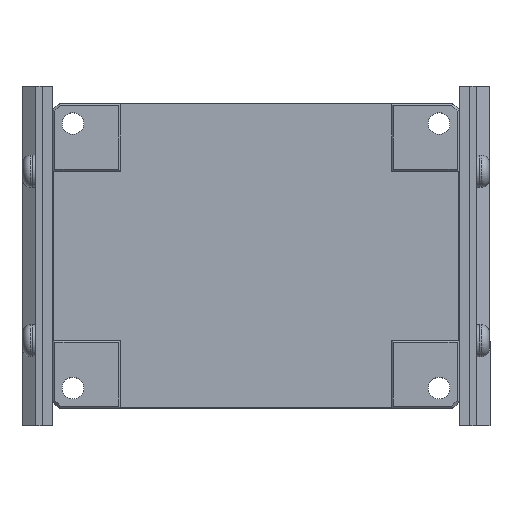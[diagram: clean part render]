
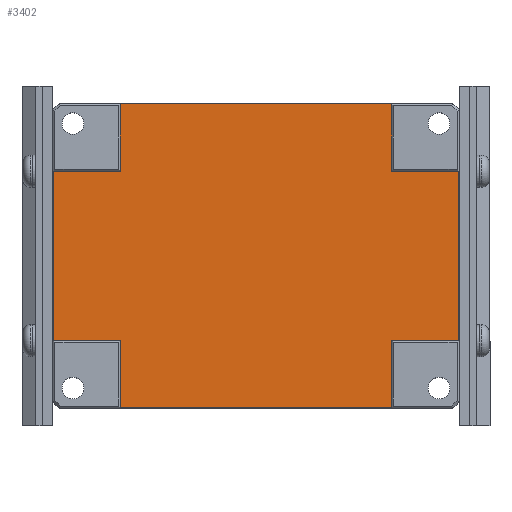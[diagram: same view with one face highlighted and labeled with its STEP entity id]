
A CAD part, top view. The second image highlights one B-rep face of the part: STEP entity #3402.
In plain terms, the highlighted planar face has unit normal (0, 0, 1).
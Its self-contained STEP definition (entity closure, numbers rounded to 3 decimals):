
#448=FACE_OUTER_BOUND('',#658,.T.);
#658=EDGE_LOOP('',(#2686,#2687,#2688,#2689,#2690,#2691,#2692,#2693,#2694,
#2695,#2696,#2697));
#972=LINE('',#5534,#1298);
#979=LINE('',#5548,#1305);
#984=LINE('',#5558,#1310);
#985=LINE('',#5560,#1311);
#986=LINE('',#5562,#1312);
#987=LINE('',#5564,#1313);
#988=LINE('',#5566,#1314);
#989=LINE('',#5568,#1315);
#990=LINE('',#5570,#1316);
#991=LINE('',#5571,#1317);
#992=LINE('',#5573,#1318);
#993=LINE('',#5574,#1319);
#1298=VECTOR('',#4497,10.);
#1305=VECTOR('',#4506,10.);
#1310=VECTOR('',#4515,10.);
#1311=VECTOR('',#4516,10.);
#1312=VECTOR('',#4517,10.);
#1313=VECTOR('',#4518,10.);
#1314=VECTOR('',#4519,10.);
#1315=VECTOR('',#4520,10.);
#1316=VECTOR('',#4521,10.);
#1317=VECTOR('',#4522,10.);
#1318=VECTOR('',#4523,10.);
#1319=VECTOR('',#4524,10.);
#1596=VERTEX_POINT('',#5531);
#1597=VERTEX_POINT('',#5533);
#1602=VERTEX_POINT('',#5545);
#1603=VERTEX_POINT('',#5547);
#1606=VERTEX_POINT('',#5557);
#1607=VERTEX_POINT('',#5559);
#1608=VERTEX_POINT('',#5561);
#1609=VERTEX_POINT('',#5563);
#1610=VERTEX_POINT('',#5565);
#1611=VERTEX_POINT('',#5567);
#1612=VERTEX_POINT('',#5569);
#1613=VERTEX_POINT('',#5572);
#2004=EDGE_CURVE('',#1596,#1597,#972,.T.);
#2011=EDGE_CURVE('',#1602,#1603,#979,.T.);
#2016=EDGE_CURVE('',#1602,#1606,#984,.T.);
#2017=EDGE_CURVE('',#1606,#1607,#985,.T.);
#2018=EDGE_CURVE('',#1608,#1607,#986,.T.);
#2019=EDGE_CURVE('',#1608,#1609,#987,.T.);
#2020=EDGE_CURVE('',#1609,#1610,#988,.T.);
#2021=EDGE_CURVE('',#1611,#1610,#989,.T.);
#2022=EDGE_CURVE('',#1611,#1612,#990,.T.);
#2023=EDGE_CURVE('',#1612,#1597,#991,.T.);
#2024=EDGE_CURVE('',#1596,#1613,#992,.T.);
#2025=EDGE_CURVE('',#1613,#1603,#993,.T.);
#2686=ORIENTED_EDGE('',*,*,#2011,.F.);
#2687=ORIENTED_EDGE('',*,*,#2016,.T.);
#2688=ORIENTED_EDGE('',*,*,#2017,.T.);
#2689=ORIENTED_EDGE('',*,*,#2018,.F.);
#2690=ORIENTED_EDGE('',*,*,#2019,.T.);
#2691=ORIENTED_EDGE('',*,*,#2020,.T.);
#2692=ORIENTED_EDGE('',*,*,#2021,.F.);
#2693=ORIENTED_EDGE('',*,*,#2022,.T.);
#2694=ORIENTED_EDGE('',*,*,#2023,.T.);
#2695=ORIENTED_EDGE('',*,*,#2004,.F.);
#2696=ORIENTED_EDGE('',*,*,#2024,.T.);
#2697=ORIENTED_EDGE('',*,*,#2025,.T.);
#3248=PLANE('',#3794);
#3402=ADVANCED_FACE('',(#448),#3248,.T.);
#3794=AXIS2_PLACEMENT_3D('',#5556,#4513,#4514);
#4497=DIRECTION('',(-1.,0.,0.));
#4506=DIRECTION('',(0.,-1.,0.));
#4513=DIRECTION('center_axis',(0.,0.,
1.));
#4514=DIRECTION('ref_axis',(1.,0.,0.));
#4515=DIRECTION('',(-1.,0.,0.));
#4516=DIRECTION('',(0.,1.,0.));
#4517=DIRECTION('',(1.,0.,0.));
#4518=DIRECTION('',(0.,-1.,0.));
#4519=DIRECTION('',(-1.,0.,0.));
#4520=DIRECTION('',(0.,1.,0.));
#4521=DIRECTION('',(1.,0.,0.));
#4522=DIRECTION('',(0.,-1.,0.));
#4523=DIRECTION('',(0.,1.,0.));
#4524=DIRECTION('',(1.,0.,0.));
#5531=CARTESIAN_POINT('',(40.,-44.8,32.5));
#5533=CARTESIAN_POINT('',(-40.,-44.8,32.5));
#5534=CARTESIAN_POINT('',(15.,-44.8,32.5));
#5545=CARTESIAN_POINT('',(59.8,25.,32.5));
#5547=CARTESIAN_POINT('',(59.8,-25.,32.5));
#5548=CARTESIAN_POINT('',(59.8,11.25,32.5));
#5556=CARTESIAN_POINT('Origin',(0.,0.,
32.5));
#5557=CARTESIAN_POINT('',(40.,25.,32.5));
#5558=CARTESIAN_POINT('',(60.,25.,32.5));
#5559=CARTESIAN_POINT('',(40.,44.8,32.5));
#5560=CARTESIAN_POINT('',(40.,25.,32.5));
#5561=CARTESIAN_POINT('',(-40.,44.8,32.5));
#5562=CARTESIAN_POINT('',(-15.,44.8,32.5));
#5563=CARTESIAN_POINT('',(-40.,25.,32.5));
#5564=CARTESIAN_POINT('',(-40.,45.,32.5));
#5565=CARTESIAN_POINT('',(-59.8,25.,32.5));
#5566=CARTESIAN_POINT('',(-40.,25.,32.5));
#5567=CARTESIAN_POINT('',(-59.8,-25.,32.5));
#5568=CARTESIAN_POINT('',(-59.8,-11.25,32.5));
#5569=CARTESIAN_POINT('',(-40.,-25.,32.5));
#5570=CARTESIAN_POINT('',(-60.,-25.,32.5));
#5571=CARTESIAN_POINT('',(-40.,-25.,32.5));
#5572=CARTESIAN_POINT('',(40.,-25.,32.5));
#5573=CARTESIAN_POINT('',(40.,-45.,32.5));
#5574=CARTESIAN_POINT('',(40.,-25.,32.5));
